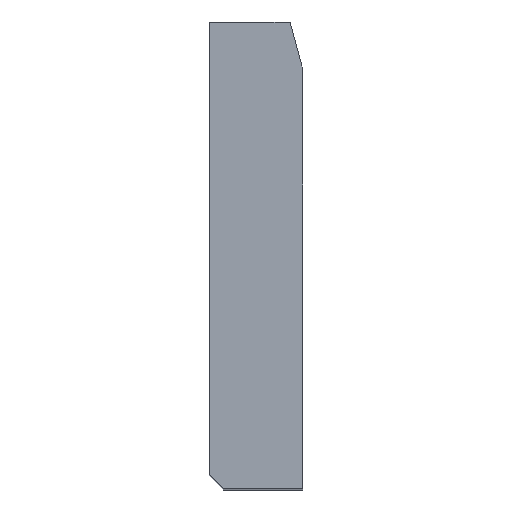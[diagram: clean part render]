
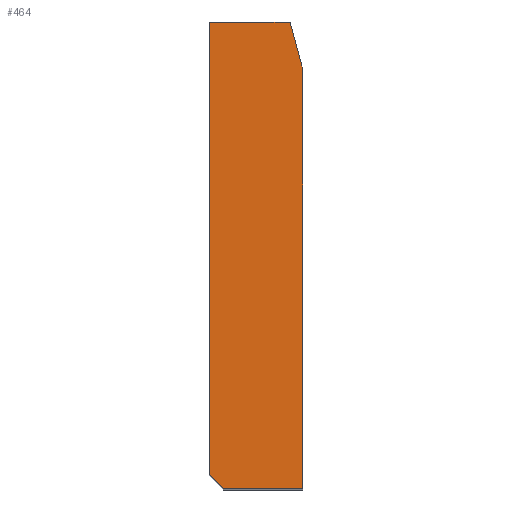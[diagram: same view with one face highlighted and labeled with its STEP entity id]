
A CAD part, top view. The second image highlights one B-rep face of the part: STEP entity #464.
In plain terms, the highlighted planar face has unit normal (0, 0, 1).
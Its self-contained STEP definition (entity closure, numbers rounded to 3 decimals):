
#70=CARTESIAN_POINT('Vertex',(0.,3.,80.)) ;
#73=CARTESIAN_POINT('Line Origine',(0.,51.5,80.)) ;
#77=CARTESIAN_POINT('Vertex',(0.,100.,80.)) ;
#402=CARTESIAN_POINT('Vertex',(3.,0.,80.)) ;
#405=CARTESIAN_POINT('Line Origine',(1.5,1.5,80.)) ;
#417=CARTESIAN_POINT('Axis2P3D Location',(15.,89.342,80.)) ;
#422=CARTESIAN_POINT('Line Origine',(11.5,0.,80.)) ;
#426=CARTESIAN_POINT('Vertex',(20.,0.,80.)) ;
#429=CARTESIAN_POINT('Line Origine',(20.,44.671,80.)) ;
#433=CARTESIAN_POINT('Vertex',(20.,89.342,80.)) ;
#436=CARTESIAN_POINT('Axis2P3D Location',(15.,89.342,80.)) ;
#440=CARTESIAN_POINT('Vertex',(19.83,90.636,80.)) ;
#443=CARTESIAN_POINT('Line Origine',(18.575,95.318,80.)) ;
#447=CARTESIAN_POINT('Vertex',(17.321,100.,80.)) ;
#450=CARTESIAN_POINT('Line Origine',(8.66,100.,80.)) ;
#74=DIRECTION('Vector Direction',(0.,-1.,0.)) ;
#406=DIRECTION('Vector Direction',(0.707,-0.707,0.)) ;
#418=DIRECTION('Axis2P3D Direction',(0.,0.,1.)) ;
#419=DIRECTION('Axis2P3D XDirection',(1.,0.,-0.)) ;
#423=DIRECTION('Vector Direction',(1.,0.,0.)) ;
#430=DIRECTION('Vector Direction',(0.,1.,0.)) ;
#437=DIRECTION('Axis2P3D Direction',(0.,0.,1.)) ;
#444=DIRECTION('Vector Direction',(-0.259,0.966,0.)) ;
#451=DIRECTION('Vector Direction',(-1.,0.,0.)) ;
#420=AXIS2_PLACEMENT_3D('Plane Axis2P3D',#417,#418,#419) ;
#438=AXIS2_PLACEMENT_3D('Circle Axis2P3D',#436,#437,$) ;
#456=ORIENTED_EDGE('',*,*,#79,.T.) ;
#457=ORIENTED_EDGE('',*,*,#409,.T.) ;
#458=ORIENTED_EDGE('',*,*,#428,.T.) ;
#459=ORIENTED_EDGE('',*,*,#435,.T.) ;
#460=ORIENTED_EDGE('',*,*,#442,.T.) ;
#461=ORIENTED_EDGE('',*,*,#449,.T.) ;
#462=ORIENTED_EDGE('',*,*,#454,.T.) ;
#75=VECTOR('Line Direction',#74,1.) ;
#407=VECTOR('Line Direction',#406,1.) ;
#424=VECTOR('Line Direction',#423,1.) ;
#431=VECTOR('Line Direction',#430,1.) ;
#445=VECTOR('Line Direction',#444,1.) ;
#452=VECTOR('Line Direction',#451,1.) ;
#464=ADVANCED_FACE('A915-160X100',(#463),#421,.T.) ;
#439=CIRCLE('generated circle',#438,5.) ;
#79=EDGE_CURVE('',#78,#71,#76,.T.) ;
#409=EDGE_CURVE('',#71,#403,#408,.T.) ;
#428=EDGE_CURVE('',#403,#427,#425,.T.) ;
#435=EDGE_CURVE('',#427,#434,#432,.T.) ;
#442=EDGE_CURVE('',#434,#441,#439,.T.) ;
#449=EDGE_CURVE('',#441,#448,#446,.T.) ;
#454=EDGE_CURVE('',#448,#78,#453,.T.) ;
#455=EDGE_LOOP('',(#456,#457,#458,#459,#460,#461,#462)) ;
#463=FACE_OUTER_BOUND('',#455,.T.) ;
#76=LINE('Line',#73,#75) ;
#408=LINE('Line',#405,#407) ;
#425=LINE('Line',#422,#424) ;
#432=LINE('Line',#429,#431) ;
#446=LINE('Line',#443,#445) ;
#453=LINE('Line',#450,#452) ;
#421=PLANE('Plane',#420) ;
#71=VERTEX_POINT('',#70) ;
#78=VERTEX_POINT('',#77) ;
#403=VERTEX_POINT('',#402) ;
#427=VERTEX_POINT('',#426) ;
#434=VERTEX_POINT('',#433) ;
#441=VERTEX_POINT('',#440) ;
#448=VERTEX_POINT('',#447) ;
